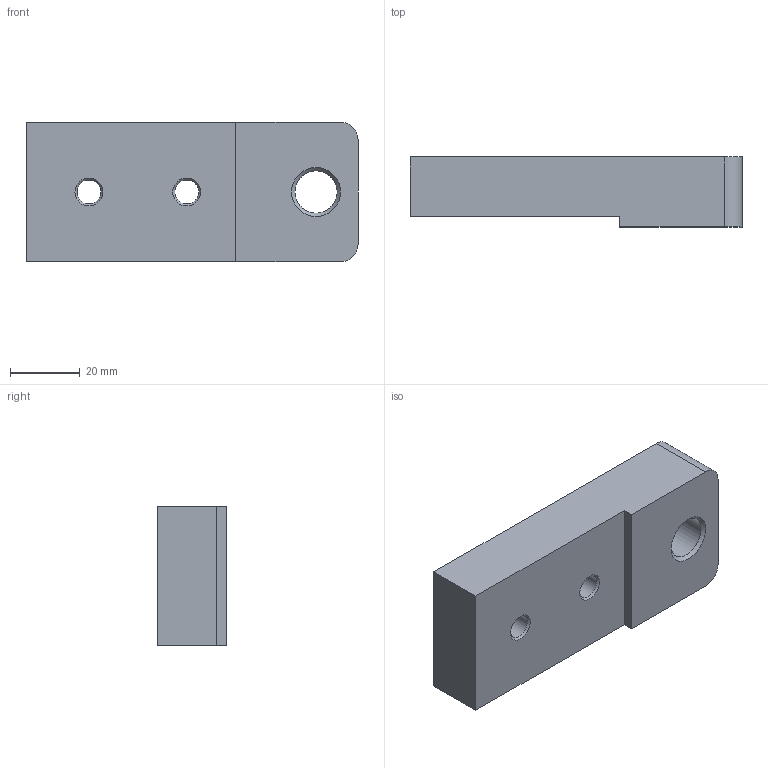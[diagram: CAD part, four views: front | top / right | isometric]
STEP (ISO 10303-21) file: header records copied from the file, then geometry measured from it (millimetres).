
FILE_DESCRIPTION(/* description */ (''),/* implementation_level */ '2;1');
FILE_NAME(/* name */ 'TRAYLOADER.49.stp',/* time_stamp */ '2025-05-12T16:04:52+02:00',/* author */ (''),/* organization */ (''),/* preprocessor_version */ 'ST-DEVELOPER v19.4',/* originating_system */ 'SIEMENS PLM Software NX2306.5001',/* authorisation */ '');
FILE_SCHEMA (('AP203_CONFIGURATION_CONTROLLED_3D_DESIGN_OF_MECHANICAL_PARTS_AND_ASSEMBLIES_MIM_LF { 1 0 10303 403 2 1 2}'));
Length unit declared in the file: millimetre
Products named in the file (1): TRAYLOADER.49_objects
Bounding box: 95 x 20 x 40 mm (x, y, z)
Volume: 64998.4 mm3; surface area: 13575.9 mm2
Topology: 1 solids, 1 shells, 19 faces, 48 edges, 31 vertices
Faces by surface type: plane 8, cone 6, cylinder 5
Full cylindrical faces by diameter (mm): 6.8 x2, 12.1 x1
Entity records: 600 total; most frequent: DIRECTION 92, CARTESIAN_POINT 84, ORIENTED_EDGE 72, EDGE_CURVE 36, AXIS2_PLACEMENT_3D 36, EDGE_LOOP 34, VERTEX_POINT 28, FACE_BOUND 27
